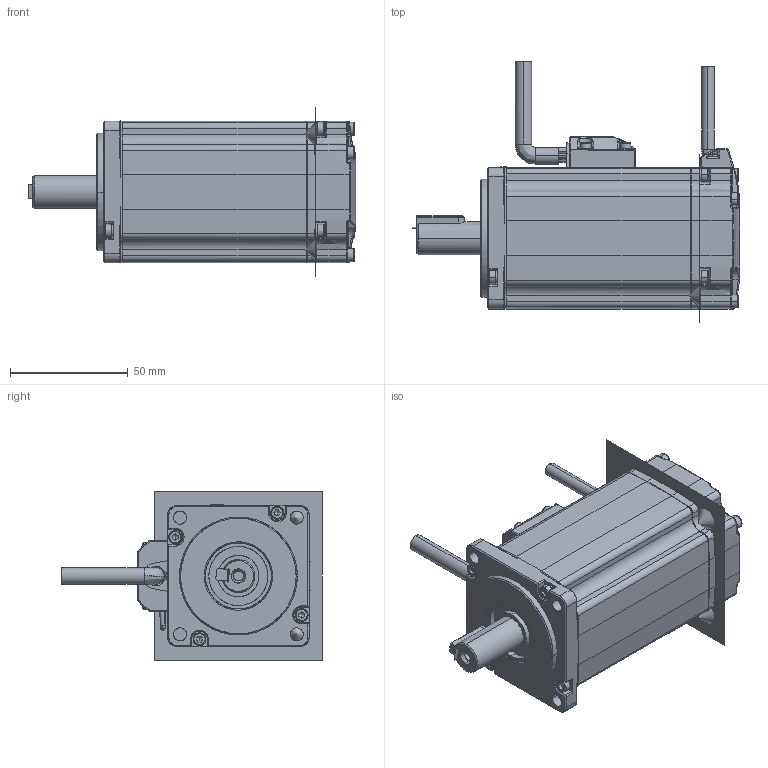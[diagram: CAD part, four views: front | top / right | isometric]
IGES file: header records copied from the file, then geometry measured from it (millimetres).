
Global section: file name: G:\00 graphics WIP\DX web info\3D drawings of EM3A\MXL-02A0630LA242\MXL-02A0630LA242.igs; native system: Rhinoceros ( May 22 2017 ); preprocessor: Trout Lake IGES 012 May 22 2017; author: Trio-MK; date: 200721.133625; units: millimetre
Bounding box: 139 x 110.64 x 71.28 mm (x, y, z)
Surface area: 48149.4 mm2 (no closed solid volume)
Topology: 0 solids, 0 shells, 963 faces, 10134 edges, 10071 vertices
Faces by surface type: bspline 963
